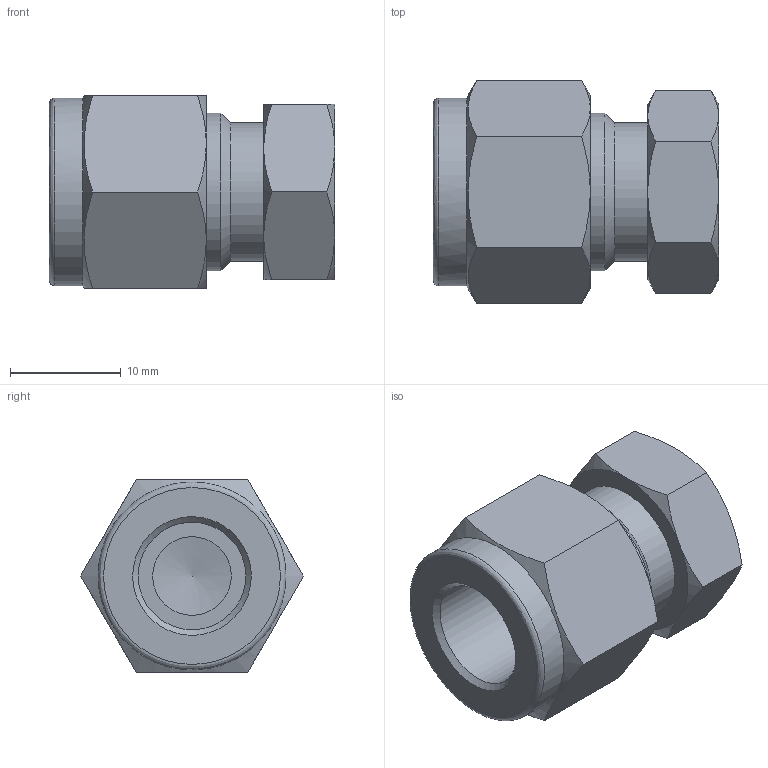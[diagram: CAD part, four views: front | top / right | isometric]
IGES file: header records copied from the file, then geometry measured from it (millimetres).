
Global section: file name: SC-6; native system: Autodesk Inventor 2016; preprocessor: unknown; author: DESIGNPC2; date: 20160312.132149; units: millimetre
Bounding box: 25.81 x 20.16 x 17.46 mm (x, y, z)
Volume: 4342.4 mm3; surface area: 2605.8 mm2
Topology: 1 solids, 1 shells, 45 faces, 120 edges, 80 vertices
Faces by surface type: bspline 45
